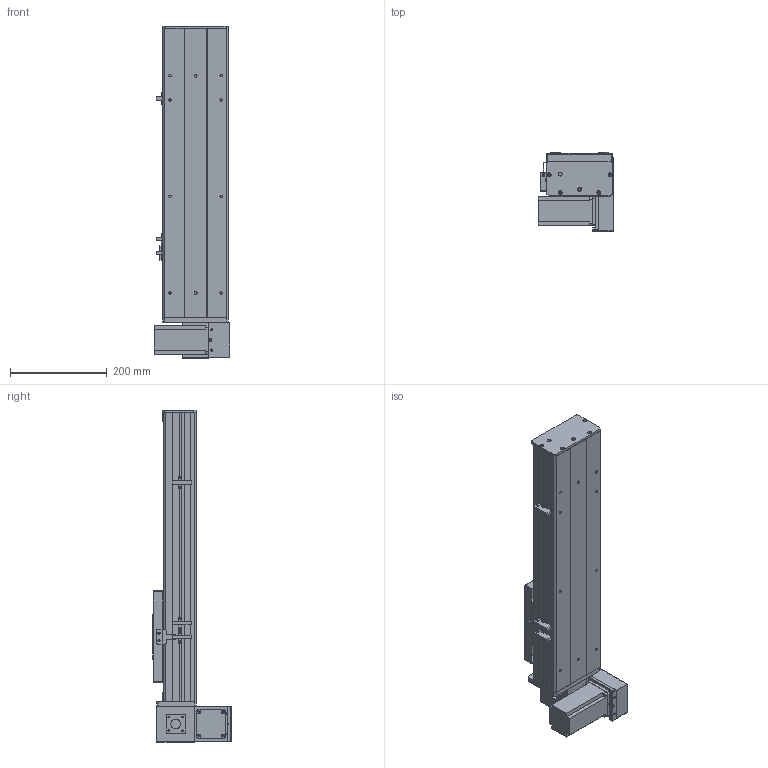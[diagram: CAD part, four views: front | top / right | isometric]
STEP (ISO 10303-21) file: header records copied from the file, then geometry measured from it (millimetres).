
FILE_DESCRIPTION (( 'STEP AP203' ), '1' );
FILE_NAME ('Y135CB-D90-S300-BM-P400W.STEP', '2020-02-18T09:12:46', ( '微软用户' ), ( '微软中国' ), 'SwSTEP 2.0', 'SolidWorks 2017', '' );
FILE_SCHEMA (( 'CONFIG_CONTROL_DESIGN' ));
Length unit declared in the file: millimetre
Products named in the file (18): Y135CB-D90-S300-BM-P400W; 135CB--詩湍-CE; 135CB---遴掛极.-; Y100-135俋离換覜ん--; 35CB---喘謫眊楊擘啣; Y135C-陔俋离換覜結え-; 0B-埴倛裔啣; 5C--俋欶; 0B-源倛裔啣; C-雄赽釱--; 0B-萇儂楊擘啣; Y10B--々湍喘謫眊--666; san松下电机400不带刹车----; 00B-俋欶BM--; 5CB --掛极耜裔啣-; Y10B-耜蚾蟀諉啣----; C-詩湍揤踡え-陔; Y135CB-耜裔
Assembly tree (21 placements, depth 2):
  Y135CB-D90-S300-BM-P400W
    Y135CB-耜裔
    135CB---遴掛极.-
    35CB---喘謫眊楊擘啣
    0B-埴倛裔啣
    0B-源倛裔啣
    0B-萇儂楊擘啣
    san松下电机400不带刹车----
    5CB --掛极耜裔啣-  x2
    C-詩湍揤踡え-陔  x2
    135CB--詩湍-CE
    Y100-135俋离換覜ん--  x3
    Y135C-陔俋离換覜結え-
    5C--俋欶
    C-雄赽釱--
    Y10B--々湍喘謫眊--666
    00B-俋欶BM--
    Y10B-耜蚾蟀諉啣----
Bounding box: 157 x 163.3 x 688 mm (x, y, z)
Volume: 2568500.9 mm3; surface area: 986506.2 mm2
Topology: 21 solids, 21 shells, 933 faces, 2473 edges, 1638 vertices
Faces by surface type: cylinder 461, plane 456, cone 16
Entity records: 28743 total; most frequent: DIRECTION 4773, CARTESIAN_POINT 4680, ORIENTED_EDGE 4422, EDGE_CURVE 2211, AXIS2_PLACEMENT_3D 1735, VERTEX_POINT 1466, VECTOR 1303, LINE 1303
